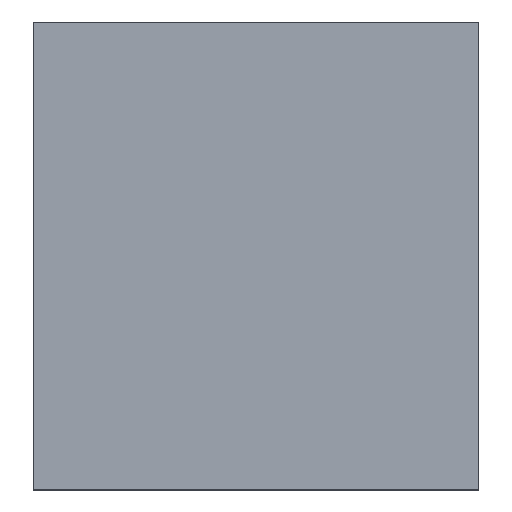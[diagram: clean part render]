
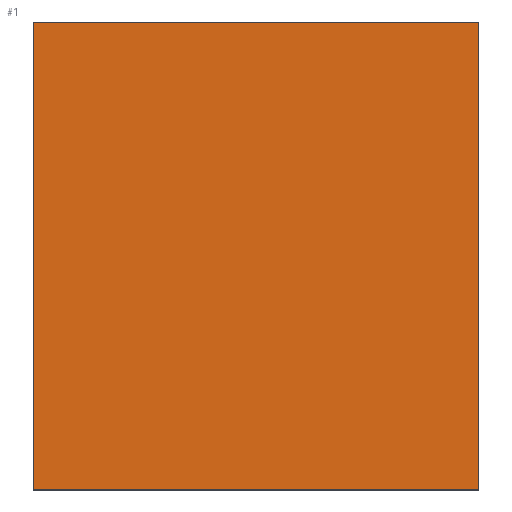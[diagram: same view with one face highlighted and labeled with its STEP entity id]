
A CAD part, top view. The second image highlights one B-rep face of the part: STEP entity #1.
In plain terms, the highlighted planar face has unit normal (0, 0, 1).
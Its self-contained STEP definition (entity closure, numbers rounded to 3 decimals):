
#1 = ADVANCED_FACE ( 'NONE', ( #137 ), #35, .F. ) ;
#34 = VERTEX_POINT ( 'NONE', #58 ) ;
#35 = PLANE ( 'NONE',  #190 ) ;
#41 = CARTESIAN_POINT ( 'NONE',  ( -204., 429., 6. ) ) ;
#43 = DIRECTION ( 'NONE',  ( 0., 1., 0. ) ) ;
#44 = CARTESIAN_POINT ( 'NONE',  ( 204., 0., 6. ) ) ;
#45 = DIRECTION ( 'NONE',  ( 0., -1., 0. ) ) ;
#46 = CARTESIAN_POINT ( 'NONE',  ( -204., 0., 6. ) ) ;
#51 = CARTESIAN_POINT ( 'NONE',  ( -204., 0., 6. ) ) ;
#52 = DIRECTION ( 'NONE',  ( -1., 0., 0. ) ) ;
#56 = CARTESIAN_POINT ( 'NONE',  ( 204., 429., 6. ) ) ;
#57 = CARTESIAN_POINT ( 'NONE',  ( -204., 429., 6. ) ) ;
#58 = CARTESIAN_POINT ( 'NONE',  ( -204., 0., 6. ) ) ;
#60 = VERTEX_POINT ( 'NONE', #57 ) ;
#61 = VERTEX_POINT ( 'NONE', #56 ) ;
#63 = CARTESIAN_POINT ( 'NONE',  ( -204., 429., 6. ) ) ;
#66 = DIRECTION ( 'NONE',  ( 1., 0., 0. ) ) ;
#74 = CARTESIAN_POINT ( 'NONE',  ( 204., 0., 6. ) ) ;
#90 = DIRECTION ( 'NONE',  ( 0., 1., 0. ) ) ;
#91 = DIRECTION ( 'NONE',  ( 0., 0., -1. ) ) ;
#94 = VERTEX_POINT ( 'NONE', #74 ) ;
#103 = VECTOR ( 'NONE', #45, 1000. ) ;
#114 = LINE ( 'NONE', #41, #139 ) ;
#127 = ORIENTED_EDGE ( 'NONE', *, *, #179, .T. ) ;
#129 = ORIENTED_EDGE ( 'NONE', *, *, #180, .T. ) ;
#137 = FACE_OUTER_BOUND ( 'NONE', #145, .T. ) ;
#139 = VECTOR ( 'NONE', #52, 1000. ) ;
#142 = LINE ( 'NONE', #51, #103 ) ;
#144 = ORIENTED_EDGE ( 'NONE', *, *, #182, .T. ) ;
#145 = EDGE_LOOP ( 'NONE', ( #127, #144, #129, #150 ) ) ;
#147 = VECTOR ( 'NONE', #66, 1000. ) ;
#150 = ORIENTED_EDGE ( 'NONE', *, *, #177, .T. ) ;
#160 = LINE ( 'NONE', #46, #147 ) ;
#164 = VECTOR ( 'NONE', #43, 1000. ) ;
#165 = LINE ( 'NONE', #44, #164 ) ;
#177 = EDGE_CURVE ( 'NONE', #61, #60, #114, .T. ) ;
#179 = EDGE_CURVE ( 'NONE', #60, #34, #142, .T. ) ;
#180 = EDGE_CURVE ( 'NONE', #94, #61, #165, .T. ) ;
#182 = EDGE_CURVE ( 'NONE', #34, #94, #160, .T. ) ;
#190 = AXIS2_PLACEMENT_3D ( 'NONE', #63, #91, #90 ) ;
